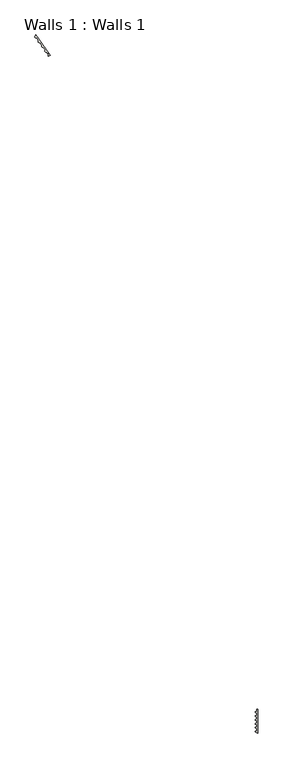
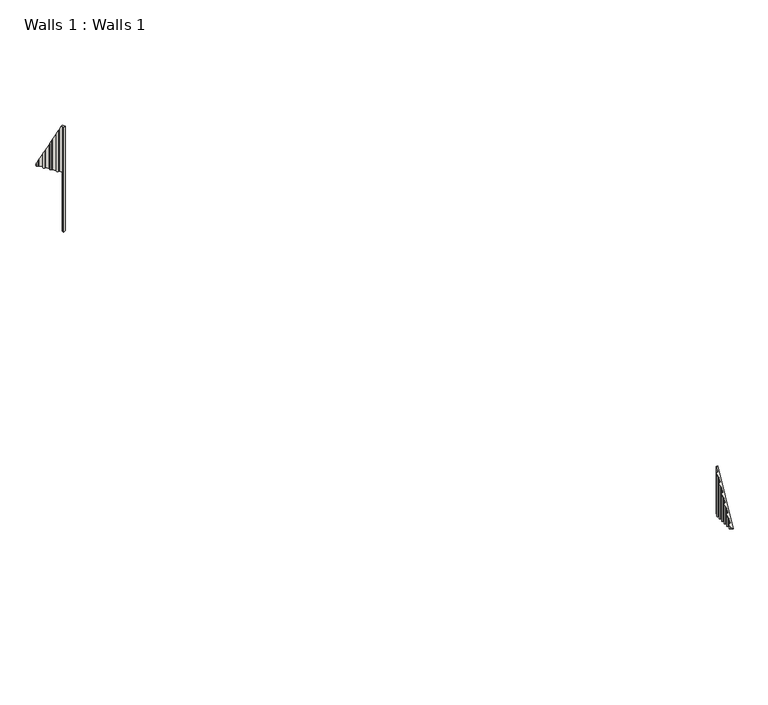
"""IFC4 building model written with IfcOpenShell, lengths in millimetres: wall geometry, Walls 1 : Walls 1."""

from ifc_helpers import new_model, si_unit, frame, origin, place, context, project, spatial, circle_curve, ellipse_curve, source, transform, mapped, element, save
from ifc_brep_helpers import plane_surface, cylinder_surface, advanced_brep


def walls_1_walls_1_007ceb3c(model_context):
    return source(origin(), model_context, "Body", "AdvancedBrep", [
        advanced_brep(
        [(-9722.9447048, 12511.140701, 1200.0), (-9766.2139587, 12480.8432432, 1200.0), (-9773.8789979, 12494.999346, 1200.0), (-9768.5819343, 12528.2130296, 1200.0), (-9770.1764638, 12530.4954614, 1200.0), (-9747.5225204, 12546.3217306, 1200.0), (-10025.5384536, 12896.0241913, 2934.5915954), (-10025.5384536, 12896.0241913, 2636.1330697), (-10030.8355172, 12862.8105077, 2636.1330697), (-10030.8355172, 12862.8105077, 2981.577514), (-10003.8680941, 12838.2568695, 2636.1330697), (-10003.8680941, 12838.2568695, 3050.66128), (-9982.8385773, 12834.9029902, 2636.1330697), (-9982.8385773, 12834.9029902, 3079.390058), (-9939.8862805, 12773.4204707, 2636.1330697), (-9939.8862805, 12773.4204707, 3225.0444975), (-9945.1833441, 12740.2067871, 2636.1330697), (-9945.1833441, 12740.2067871, 3272.0304161), (-9918.215921, 12715.653149, 2636.1330697), (-9918.215921, 12715.653149, 3341.1141821), (-9897.1864042, 12712.2992696, 2636.1330697), (-9897.1864042, 12712.2992696, 3369.8429601), (-9854.2341074, 12650.8167502, 2636.1330697), (-9854.2341074, 12650.8167502, 3515.4973996), (-9859.531171, 12617.6030666, 2636.1330697), (-9859.531171, 12617.6030666, 3562.4833182), (-9832.5637479, 12593.0494284, 2636.1330697), (-9832.5637479, 12593.0494284, 3631.5670842), (-9811.5342311, 12589.695549, 2636.1330697), (-9811.5342311, 12589.695549, 3660.2958622), (-9768.5819343, 12528.2130296, 3757.2701869), (-9782.9373, 12548.7615011, 3757.2701869), (-9770.1764638, 12530.4954614, 2636.1330697), (-9773.8789979, 12494.999346, 3757.2701869), (-9766.2139587, 12480.8432432, 3757.2701869), (-9722.9447048, 12511.140701, 3757.2701869), (-9747.5225204, 12546.3217306, 2636.1330697), (-10088.8904236, 13034.9605298, 2636.1330697), (-10088.8904236, 13034.9605298, 2642.9391337), (-9760.2833566, 12564.5877703, 3757.2701869), (-10111.0553916, 13019.4758637, 2636.1330697), (-10111.0553916, 13019.4758637, 2642.9391337), (-10116.4876903, 12985.4142283, 2636.1330697), (-10116.4876903, 12985.4142283, 2691.1246119), (-10089.5202672, 12960.8605901, 2636.1330697), (-10089.5202672, 12960.8605901, 2760.2083779), (-10068.4907504, 12957.5067108, 2636.1330697), (-10068.4907504, 12957.5067108, 2788.9371559)],
        [
            (0, 1),
            (1, 2, circle_curve(frame((-9741.6744147, 12503.283784, 1200.0), z_axis=(0.0, 0.0, -1.0), x_axis=(0.0010728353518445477, 0.9999994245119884, 0.0)), 33.2530764)),
            (2, 3),
            (3, 4),
            (4, 5),
            (5, 0),
            (6, 7),
            (7, 8),
            (8, 9),
            (9, 6),
            (8, 10, circle_curve(frame((-9998.630934, 12871.0949457, 2636.1330697), z_axis=(0.0, 0.0, 1.0), x_axis=(0.0010728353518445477, 0.9999994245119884, 0.0)), 33.2530764)),
            (10, 11),
            (11, 9, ellipse_curve(frame((-9998.630934, 12871.0949457, 3004.2067165), z_axis=(0.5091618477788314, -0.7288214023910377, -0.45779206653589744), x_axis=(0.2621762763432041, -0.3752827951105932, 0.889059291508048)), 72.6379482, 33.2530764)),
            (10, 12),
            (12, 13),
            (13, 11),
            (12, 14),
            (14, 15),
            (15, 13),
            (14, 16),
            (16, 17),
            (17, 15),
            (16, 18, circle_curve(frame((-9912.9787609, 12748.4912251, 2636.1330697), z_axis=(0.0, 0.0, 1.0), x_axis=(0.0010728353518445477, 0.9999994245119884, 0.0)), 33.2530764)),
            (18, 19),
            (19, 17, ellipse_curve(frame((-9912.9787609, 12748.4912251, 3294.6596186), z_axis=(0.5091618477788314, -0.7288214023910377, -0.45779206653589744), x_axis=(0.2621762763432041, -0.3752827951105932, 0.889059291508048)), 72.6379482, 33.2530764)),
            (18, 20),
            (20, 21),
            (21, 19),
            (20, 22),
            (22, 23),
            (23, 21),
            (22, 24),
            (24, 25),
            (25, 23),
            (24, 26, circle_curve(frame((-9827.3265878, 12625.8875046, 2636.1330697), z_axis=(0.0, 0.0, 1.0), x_axis=(0.0010728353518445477, 0.9999994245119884, 0.0)), 33.2530764)),
            (26, 27),
            (27, 25, ellipse_curve(frame((-9827.3265878, 12625.8875046, 3585.1125207), z_axis=(0.5091618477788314, -0.7288214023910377, -0.45779206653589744), x_axis=(0.2621762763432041, -0.3752827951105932, 0.889059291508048)), 72.6379482, 33.2530764)),
            (26, 28),
            (28, 29),
            (29, 27),
            (3, 30),
            (30, 31),
            (31, 29),
            (28, 32),
            (32, 4),
            (2, 33),
            (33, 30),
            (1, 34),
            (34, 33, circle_curve(frame((-9741.6744147, 12503.283784, 3757.2701869), z_axis=(0.0, 0.0, -1.0), x_axis=(0.0010728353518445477, 0.9999994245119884, 0.0)), 33.2530764)),
            (0, 35),
            (35, 34),
            (5, 36),
            (36, 37),
            (37, 38),
            (38, 39),
            (39, 35),
            (37, 40),
            (40, 41),
            (41, 38),
            (40, 42),
            (42, 43),
            (43, 41),
            (42, 44, circle_curve(frame((-10084.2831071, 12993.6986663, 2636.1330697), z_axis=(0.0, 0.0, 1.0), x_axis=(0.0010728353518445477, 0.9999994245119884, 0.0)), 33.2530764)),
            (44, 45),
            (45, 43, ellipse_curve(frame((-10084.2831071, 12993.6986663, 2713.7538144), z_axis=(0.5091618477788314, -0.7288214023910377, -0.45779206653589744), x_axis=(0.2621762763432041, -0.3752827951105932, 0.889059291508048)), 72.6379482, 33.2530764)),
            (44, 46),
            (46, 47),
            (47, 45),
            (6, 47),
            (46, 7),
            (31, 39),
            (32, 36),
        ],
        [
            plane_surface(frame((-10025.5384536, 12896.0241913, 1200.0), z_axis=(0.0, 0.0, -1.0000000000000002), x_axis=(0.1574940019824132, 0.987519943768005, 0.0))),
            plane_surface(frame((-10025.5384536, 12896.0241913, 7200.0), z_axis=(-0.987519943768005, 0.1574940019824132, 0.0), x_axis=(0.0, 0.0, -1.0))),
            cylinder_surface(frame((-9998.630934, 12871.0949457, 1200.0), z_axis=(0.0, 0.0, 1.0000000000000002), x_axis=(0.0010728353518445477, 0.9999994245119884, 0.0)), 33.2530764),
            plane_surface(frame((-10003.8680941, 12838.2568695, 7200.0), z_axis=(-0.1574940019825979, -0.9875199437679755, 0.0), x_axis=(0.0, 0.0, -1.0))),
            plane_surface(frame((-9982.8385773, 12834.9029902, 7200.0), z_axis=(-0.819766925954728, -0.5726972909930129, 0.0), x_axis=(0.0, 0.0, -1.0))),
            plane_surface(frame((-9939.8862805, 12773.4204707, 7200.0), z_axis=(-0.9875199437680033, 0.1574940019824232, 0.0), x_axis=(0.0, 0.0, -1.0))),
            cylinder_surface(frame((-9912.9787609, 12748.4912251, 1200.0), z_axis=(0.0, 0.0, 1.0000000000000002), x_axis=(0.0010728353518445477, 0.9999994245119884, 0.0)), 33.2530764),
            plane_surface(frame((-9918.215921, 12715.653149, 7200.0), z_axis=(-0.1574940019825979, -0.9875199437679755, 0.0), x_axis=(0.0, 0.0, -1.0))),
            plane_surface(frame((-9897.1864042, 12712.2992696, 7200.0), z_axis=(-0.819766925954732, -0.5726972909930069, 0.0), x_axis=(0.0, 0.0, -1.0))),
            plane_surface(frame((-9854.2341074, 12650.8167502, 7200.0), z_axis=(-0.987519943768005, 0.1574940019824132, 0.0), x_axis=(0.0, 0.0, -1.0))),
            cylinder_surface(frame((-9827.3265878, 12625.8875046, 1200.0), z_axis=(0.0, 0.0, 1.0000000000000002), x_axis=(0.0010728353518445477, 0.9999994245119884, 0.0)), 33.2530764),
            plane_surface(frame((-9832.5637479, 12593.0494284, 7200.0), z_axis=(-0.1574940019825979, -0.9875199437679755, 0.0), x_axis=(0.0, 0.0, -1.0))),
            plane_surface(frame((-9811.5342311, 12589.695549, 7200.0), z_axis=(-0.8197669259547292, -0.5726972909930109, 0.0), x_axis=(0.0, 0.0, -1.0))),
            plane_surface(frame((-9768.5819343, 12528.2130296, 7200.0), z_axis=(-0.987519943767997, 0.15749400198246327, 0.0), x_axis=(0.0, 0.0, -1.0))),
            cylinder_surface(frame((-9741.6744147, 12503.283784, 1200.0), z_axis=(0.0, 0.0, 1.0000000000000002), x_axis=(0.0010728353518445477, 0.9999994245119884, 0.0)), 33.2530764),
            plane_surface(frame((-9766.2139587, 12480.8432432, 7200.0), z_axis=(0.5735764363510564, -0.8191520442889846, 0.0), x_axis=(0.0, 0.0, -1.0))),
            plane_surface(frame((-9722.9447048, 12511.140701, 7200.0), z_axis=(0.8197669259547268, 0.5726972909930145, 0.0), x_axis=(0.0, 0.0, -1.0))),
            plane_surface(frame((-10088.8904236, 13034.9605298, 7200.0), z_axis=(-0.5726972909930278, 0.8197669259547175, 0.0), x_axis=(0.0, 0.0, -1.0))),
            plane_surface(frame((-10111.0553916, 13019.4758637, 7200.0), z_axis=(-0.9875199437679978, 0.15749400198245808, 0.0), x_axis=(0.0, 0.0, -1.0))),
            cylinder_surface(frame((-10084.2831071, 12993.6986663, 1200.0), z_axis=(0.0, 0.0, 1.0000000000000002), x_axis=(0.0010728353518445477, 0.9999994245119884, 0.0)), 33.2530764),
            plane_surface(frame((-10089.5202672, 12960.8605901, 7200.0), z_axis=(-0.1574940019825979, -0.9875199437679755, 0.0), x_axis=(0.0, 0.0, -1.0))),
            plane_surface(frame((-10068.4907504, 12957.5067108, 7200.0), z_axis=(-0.819766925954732, -0.5726972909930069, 0.0), x_axis=(0.0, 0.0, -1.0))),
            plane_surface(frame((-8970.4112908, 13116.400216, 3757.2701869), z_axis=(-0.5091618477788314, 0.7288214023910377, 0.45779206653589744), x_axis=(-0.8197669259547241, -0.5726972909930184, 0.0))),
            plane_surface(frame((-8957.6504546, 13098.1341763, 2636.1330697), z_axis=(-0.5726972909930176, 0.8197669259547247, 0.0), x_axis=(-0.8197669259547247, -0.5726972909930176, 0.0))),
            plane_surface(frame((-9301.02541, 13589.6458983, 2636.1330697), z_axis=(0.0, 0.0, -1.0), x_axis=(-0.8197669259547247, -0.5726972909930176, 0.0))),
            plane_surface(frame((-8901.557309, 13017.8416618, 3757.2701869), z_axis=(0.0, 0.0, 1.0), x_axis=(-0.8197669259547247, -0.5726972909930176, 0.0))),
        ],
        [
            (0, [[1, 2, 3, 4, 5, 6]]),
            (1, [[7, 8, 9, 10]]),
            (2, [[-9, 11, 12, 13]]),
            (3, [[-12, 14, 15, 16]]),
            (4, [[-15, 17, 18, 19]]),
            (5, [[-18, 20, 21, 22]]),
            (6, [[-21, 23, 24, 25]]),
            (7, [[-24, 26, 27, 28]]),
            (8, [[-27, 29, 30, 31]]),
            (9, [[-30, 32, 33, 34]]),
            (10, [[-33, 35, 36, 37]]),
            (11, [[-36, 38, 39, 40]]),
            (12, [[-4, 41, 42, 43, -39, 44, 45]]),
            (13, [[-3, 46, 47, -41]]),
            (14, [[-2, 48, 49, -46]]),
            (15, [[-1, 50, 51, -48]]),
            (16, [[-6, 52, 53, 54, 55, 56, -50]]),
            (17, [[-54, 57, 58, 59]]),
            (18, [[-58, 60, 61, 62]]),
            (19, [[-61, 63, 64, 65]]),
            (20, [[-64, 66, 67, 68]]),
            (21, [[-7, 69, -67, 70]]),
            (22, [[71, -55, -59, -62, -65, -68, -69, -10, -13, -16, -19, -22, -25, -28, -31, -34, -37, -40, -43]]),
            (23, [[72, -52, -5, -45]]),
            (24, [[-72, -44, -38, -35, -32, -29, -26, -23, -20, -17, -14, -11, -8, -70, -66, -63, -60, -57, -53]]),
            (25, [[-71, -42, -47, -49, -51, -56]]),
        ],
    ),
        advanced_brep(
        [(-4371.2697946, -4344.9753259, 2632.1961848), (-4371.2697946, -4344.9753259, 3798.3488193), (-4371.2697946, -4958.9877494, 2632.1961848), (-4403.0697946, -4344.9753259, 2632.1961848), (-4403.0697946, -4344.9753259, 3798.3488193), (-4403.0697946, -4394.9753259, 2632.1961848), (-4403.0697946, -4394.9753259, 3703.3871712), (-4426.2369788, -4406.558918, 2632.1961848), (-4426.2369788, -4406.558918, 3681.3872312), (-4426.2369788, -4433.3917337, 2632.1961848), (-4426.2369788, -4433.3917337, 3630.425463), (-4403.0697946, -4444.9753259, 2632.1961848), (-4403.0697946, -4444.9753259, 3608.425523), (-4403.0697946, -4494.9753259, 2632.1961848), (-4403.0697946, -4494.9753259, 3513.4638749), (-4426.2369788, -4506.558918, 2632.1961848), (-4426.2369788, -4506.558918, 3491.4639348), (-4426.2369788, -4533.3917337, 2632.1961848), (-4426.2369788, -4533.3917337, 3440.5021667), (-4403.0697946, -4544.9753259, 2632.1961848), (-4403.0697946, -4544.9753259, 3418.5022267), (-4403.0697946, -4594.9753259, 2632.1961848), (-4403.0697946, -4594.9753259, 3323.5405785), (-4426.2369788, -4606.558918, 2632.1961848), (-4426.2369788, -4606.558918, 3301.5406385), (-4426.2369788, -4633.3917337, 2632.1961848), (-4426.2369788, -4633.3917337, 3250.5788704), (-4403.0697946, -4644.9753259, 2632.1961848), (-4403.0697946, -4644.9753259, 3228.5789304), (-4403.0697946, -4694.9753259, 2632.1961848), (-4403.0697946, -4694.9753259, 3133.6172822), (-4426.2369788, -4706.558918, 2632.1961848), (-4426.2369788, -4706.558918, 3111.6173422), (-4426.2369788, -4733.3917337, 2632.1961848), (-4426.2369788, -4733.3917337, 3060.6555741), (-4403.0697946, -4744.9753259, 2632.1961848), (-4403.0697946, -4744.9753259, 3038.6556341), (-4403.0697946, -4794.9753259, 2632.1961848), (-4403.0697946, -4794.9753259, 2943.6939859), (-4426.2369788, -4806.558918, 2632.1961848), (-4426.2369788, -4806.558918, 2921.6940459), (-4426.2369788, -4833.3917337, 2632.1961848), (-4426.2369788, -4833.3917337, 2870.7322778), (-4403.0697946, -4844.9753259, 2632.1961848), (-4403.0697946, -4844.9753259, 2848.7323377), (-4403.0697946, -4894.9753259, 2632.1961848), (-4403.0697946, -4894.9753259, 2753.7706896), (-4426.2369788, -4906.558918, 2632.1961848), (-4426.2369788, -4906.558918, 2731.7707496), (-4426.2369788, -4933.3917337, 2632.1961848), (-4426.2369788, -4933.3917337, 2680.8089814), (-4375.0449475, -4958.9877494, 2632.1961848)],
        [
            (0, 1),
            (1, 2),
            (2, 0),
            (0, 3),
            (3, 4),
            (4, 1),
            (3, 5),
            (5, 6),
            (6, 4),
            (5, 7),
            (7, 8),
            (8, 6),
            (7, 9, circle_curve(frame((-4419.5287749, -4419.9753259, 2632.1961848), z_axis=(0.0, 0.0, 1.0), x_axis=(1.0, 0.0, 0.0)), 15.0)),
            (9, 10),
            (10, 8, ellipse_curve(frame((-4419.5287749, -4419.9753259, 3655.9063471), z_axis=(0.0, 0.8848406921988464, -0.4658937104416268), x_axis=(0.0, 0.4658937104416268, 0.8848406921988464)), 32.1961848, 15.0)),
            (9, 11),
            (11, 12),
            (12, 10),
            (11, 13),
            (13, 14),
            (14, 12),
            (13, 15),
            (15, 16),
            (16, 14),
            (15, 17, circle_curve(frame((-4419.5287749, -4519.9753259, 2632.1961848), z_axis=(0.0, 0.0, 1.0), x_axis=(1.0, 0.0, 0.0)), 15.0)),
            (17, 18),
            (18, 16, ellipse_curve(frame((-4419.5287749, -4519.9753259, 3465.9830508), z_axis=(0.0, 0.8848406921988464, -0.4658937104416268), x_axis=(0.0, 0.4658937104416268, 0.8848406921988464)), 32.1961848, 15.0)),
            (17, 19),
            (19, 20),
            (20, 18),
            (19, 21),
            (21, 22),
            (22, 20),
            (21, 23),
            (23, 24),
            (24, 22),
            (23, 25, circle_curve(frame((-4419.5287749, -4619.9753259, 2632.1961848), z_axis=(0.0, 0.0, 1.0), x_axis=(1.0, 0.0, 0.0)), 15.0)),
            (25, 26),
            (26, 24, ellipse_curve(frame((-4419.5287749, -4619.9753259, 3276.0597545), z_axis=(0.0, 0.8848406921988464, -0.4658937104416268), x_axis=(0.0, 0.4658937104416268, 0.8848406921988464)), 32.1961848, 15.0)),
            (25, 27),
            (27, 28),
            (28, 26),
            (27, 29),
            (29, 30),
            (30, 28),
            (29, 31),
            (31, 32),
            (32, 30),
            (31, 33, circle_curve(frame((-4419.5287749, -4719.9753259, 2632.1961848), z_axis=(0.0, 0.0, 1.0), x_axis=(1.0, 0.0, 0.0)), 15.0)),
            (33, 34),
            (34, 32, ellipse_curve(frame((-4419.5287749, -4719.9753259, 3086.1364581), z_axis=(0.0, 0.8848406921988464, -0.4658937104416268), x_axis=(0.0, 0.4658937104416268, 0.8848406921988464)), 32.1961848, 15.0)),
            (33, 35),
            (35, 36),
            (36, 34),
            (35, 37),
            (37, 38),
            (38, 36),
            (37, 39),
            (39, 40),
            (40, 38),
            (39, 41, circle_curve(frame((-4419.5287749, -4819.9753259, 2632.1961848), z_axis=(0.0, 0.0, 1.0), x_axis=(1.0, 0.0, 0.0)), 15.0)),
            (41, 42),
            (42, 40, ellipse_curve(frame((-4419.5287749, -4819.9753259, 2896.2131618), z_axis=(0.0, 0.8848406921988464, -0.4658937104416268), x_axis=(0.0, 0.4658937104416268, 0.8848406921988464)), 32.1961848, 15.0)),
            (41, 43),
            (43, 44),
            (44, 42),
            (43, 45),
            (45, 46),
            (46, 44),
            (45, 47),
            (47, 48),
            (48, 46),
            (47, 49, circle_curve(frame((-4419.5287749, -4919.9753259, 2632.1961848), z_axis=(0.0, 0.0, 1.0), x_axis=(1.0, 0.0, 0.0)), 15.0)),
            (49, 50),
            (50, 48, ellipse_curve(frame((-4419.5287749, -4919.9753259, 2706.2898655), z_axis=(0.0, 0.8848406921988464, -0.4658937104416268), x_axis=(0.0, 0.4658937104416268, 0.8848406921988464)), 32.1961848, 15.0)),
            (49, 51),
            (51, 50),
            (2, 51),
        ],
        [
            plane_surface(frame((-4371.2697946, -4960.8753259, 7200.0), z_axis=(1.0, 0.0, 0.0), x_axis=(0.0, 0.0, -1.0))),
            plane_surface(frame((-4371.2697946, -4344.9753259, 7200.0), z_axis=(0.0, 1.0, 0.0), x_axis=(0.0, 0.0, -1.0))),
            plane_surface(frame((-4403.0697946, -4344.9753259, 7200.0), z_axis=(-1.0, 0.0, 0.0), x_axis=(0.0, 0.0, -1.0))),
            plane_surface(frame((-4403.0697946, -4394.9753259, 7200.0), z_axis=(-0.4472135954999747, 0.8944271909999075, 0.0), x_axis=(0.0, 0.0, -1.0))),
            cylinder_surface(frame((-4419.5287749, -4419.9753259, 3200.0), z_axis=(0.0, 0.0, 1.0), x_axis=(1.0, 0.0, 0.0)), 15.0),
            plane_surface(frame((-4426.2369788, -4433.3917337, 7200.0), z_axis=(-0.447213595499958, -0.894427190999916, 0.0), x_axis=(0.0, 0.0, -1.0))),
            plane_surface(frame((-4403.0697946, -4444.9753259, 7200.0), z_axis=(-1.0, 0.0, 0.0), x_axis=(0.0, 0.0, -1.0))),
            plane_surface(frame((-4403.0697946, -4494.9753259, 7200.0), z_axis=(-0.4472135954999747, 0.8944271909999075, 0.0), x_axis=(0.0, 0.0, -1.0))),
            cylinder_surface(frame((-4419.5287749, -4519.9753259, 3200.0), z_axis=(0.0, 0.0, 1.0), x_axis=(1.0, 0.0, 0.0)), 15.0),
            plane_surface(frame((-4426.2369788, -4533.3917337, 7200.0), z_axis=(-0.447213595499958, -0.894427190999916, 0.0), x_axis=(0.0, 0.0, -1.0))),
            plane_surface(frame((-4403.0697946, -4544.9753259, 7200.0), z_axis=(-1.0, 0.0, 0.0), x_axis=(0.0, 0.0, -1.0))),
            plane_surface(frame((-4403.0697946, -4594.9753259, 7200.0), z_axis=(-0.4472135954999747, 0.8944271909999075, 0.0), x_axis=(0.0, 0.0, -1.0))),
            cylinder_surface(frame((-4419.5287749, -4619.9753259, 3200.0), z_axis=(0.0, 0.0, 1.0), x_axis=(1.0, 0.0, 0.0)), 15.0),
            plane_surface(frame((-4426.2369788, -4633.3917337, 7200.0), z_axis=(-0.447213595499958, -0.894427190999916, 0.0), x_axis=(0.0, 0.0, -1.0))),
            plane_surface(frame((-4403.0697946, -4644.9753259, 7200.0), z_axis=(-1.0, 0.0, 0.0), x_axis=(0.0, 0.0, -1.0))),
            plane_surface(frame((-4403.0697946, -4694.9753259, 7200.0), z_axis=(-0.4472135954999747, 0.8944271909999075, 0.0), x_axis=(0.0, 0.0, -1.0))),
            cylinder_surface(frame((-4419.5287749, -4719.9753259, 3200.0), z_axis=(0.0, 0.0, 1.0), x_axis=(1.0, 0.0, 0.0)), 15.0),
            plane_surface(frame((-4426.2369788, -4733.3917337, 7200.0), z_axis=(-0.447213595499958, -0.894427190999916, 0.0), x_axis=(0.0, 0.0, -1.0))),
            plane_surface(frame((-4403.0697946, -4744.9753259, 7200.0), z_axis=(-1.0, 0.0, 0.0), x_axis=(0.0, 0.0, -1.0))),
            plane_surface(frame((-4403.0697946, -4794.9753259, 7200.0), z_axis=(-0.4472135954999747, 0.8944271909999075, 0.0), x_axis=(0.0, 0.0, -1.0))),
            cylinder_surface(frame((-4419.5287749, -4819.9753259, 3200.0), z_axis=(0.0, 0.0, 1.0), x_axis=(1.0, 0.0, 0.0)), 15.0),
            plane_surface(frame((-4426.2369788, -4833.3917337, 7200.0), z_axis=(-0.447213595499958, -0.894427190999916, 0.0), x_axis=(0.0, 0.0, -1.0))),
            plane_surface(frame((-4403.0697946, -4844.9753259, 7200.0), z_axis=(-1.0, 0.0, 0.0), x_axis=(0.0, 0.0, -1.0))),
            plane_surface(frame((-4403.0697946, -4894.9753259, 7200.0), z_axis=(-0.447213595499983, 0.8944271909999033, 0.0), x_axis=(0.0, 0.0, -1.0))),
            cylinder_surface(frame((-4419.5287749, -4919.9753259, 3200.0), z_axis=(0.0, 0.0, 1.0), x_axis=(1.0, 0.0, 0.0)), 15.0),
            plane_surface(frame((-4426.2369788, -4933.3917337, 7200.0), z_axis=(-0.4472135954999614, -0.8944271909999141, 0.0), x_axis=(0.0, 0.0, -1.0))),
            plane_surface(frame((-4003.0697946, -4344.9753259, 2632.1961848), z_axis=(0.0, 0.0, -1.0), x_axis=(-1.0, 0.0, 0.0))),
            plane_surface(frame((-4003.0697946, -4958.9877494, 2632.1961848), z_axis=(0.0, -0.8848406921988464, 0.4658937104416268), x_axis=(-1.0, 0.0, 0.0))),
        ],
        [
            (0, [[1, 2, 3]]),
            (1, [[-1, 4, 5, 6]]),
            (2, [[-5, 7, 8, 9]]),
            (3, [[-8, 10, 11, 12]]),
            (4, [[-11, 13, 14, 15]]),
            (5, [[-14, 16, 17, 18]]),
            (6, [[-17, 19, 20, 21]]),
            (7, [[-20, 22, 23, 24]]),
            (8, [[-23, 25, 26, 27]]),
            (9, [[-26, 28, 29, 30]]),
            (10, [[-29, 31, 32, 33]]),
            (11, [[-32, 34, 35, 36]]),
            (12, [[-35, 37, 38, 39]]),
            (13, [[-38, 40, 41, 42]]),
            (14, [[-41, 43, 44, 45]]),
            (15, [[-44, 46, 47, 48]]),
            (16, [[-47, 49, 50, 51]]),
            (17, [[-50, 52, 53, 54]]),
            (18, [[-53, 55, 56, 57]]),
            (19, [[-56, 58, 59, 60]]),
            (20, [[-59, 61, 62, 63]]),
            (21, [[-62, 64, 65, 66]]),
            (22, [[-65, 67, 68, 69]]),
            (23, [[-68, 70, 71, 72]]),
            (24, [[-71, 73, 74, 75]]),
            (25, [[-74, 76, 77]]),
            (26, [[78, -76, -73, -70, -67, -64, -61, -58, -55, -52, -49, -46, -43, -40, -37, -34, -31, -28, -25, -22, -19, -16, -13, -10, -7, -4, -3]]),
            (27, [[-78, -2, -6, -9, -12, -15, -18, -21, -24, -27, -30, -33, -36, -39, -42, -45, -48, -51, -54, -57, -60, -63, -66, -69, -72, -75, -77]]),
        ],
    ),
    ])


if __name__ == "__main__":
    model = new_model("IFC4")
    model_context = context("Model", 3, world=origin())
    ifc_project = project(units=[si_unit("LENGTHUNIT", "METRE", prefix="MILLI")], contexts=[model_context])
    site = spatial("IfcSite", under=ifc_project)
    building = spatial("IfcBuilding", under=site)
    placement = place(None, origin())
    walls_1_walls_1_shape = walls_1_walls_1_007ceb3c(model_context)
    element("IfcWall", 1, ObjectType="Walls 1 : Walls 1", at=placement, inside=building, context=model_context, shape_type="MappedRepresentation", body=[
        mapped(walls_1_walls_1_shape, transform((0.0, 0.0, 0.0), x_axis=(1.0, 0.0, 0.0), y_axis=(0.0, 1.0, 0.0), z_axis=(0.0, 0.0, 1.0))),
    ])
    save(model, "model.ifc")
